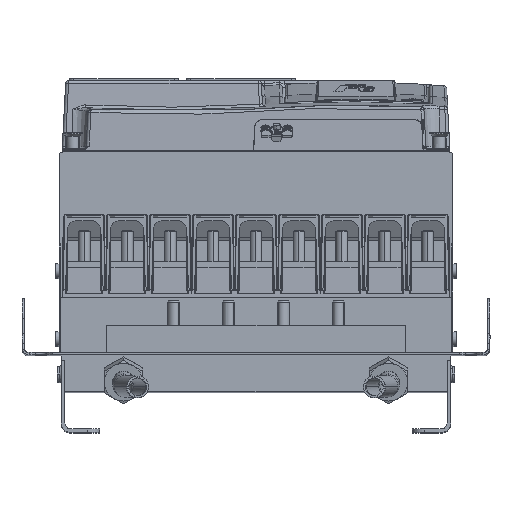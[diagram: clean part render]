
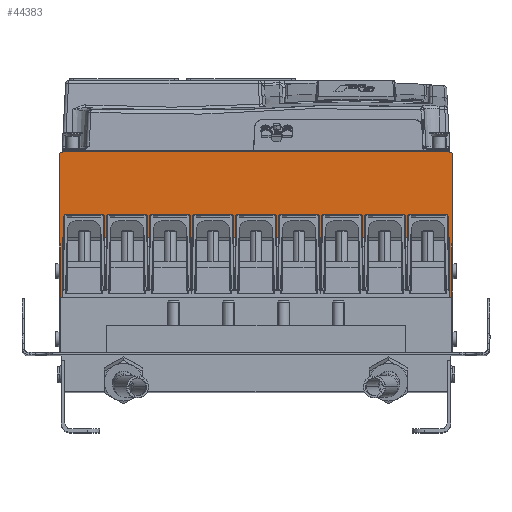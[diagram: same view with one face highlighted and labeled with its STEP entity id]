
A CAD part, top view. The second image highlights one B-rep face of the part: STEP entity #44383.
In plain terms, the highlighted planar face has unit normal (0, 0, 1).
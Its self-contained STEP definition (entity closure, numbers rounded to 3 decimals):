
#478 = CARTESIAN_POINT ( 'NONE',  ( 161.5, 0., 453. ) ) ;
#1146 = VERTEX_POINT ( 'NONE', #7150 ) ;
#2809 = CARTESIAN_POINT ( 'NONE',  ( 163.5, -77., 453. ) ) ;
#3658 = AXIS2_PLACEMENT_3D ( 'NONE', #93496, #74677, #92438 ) ;
#4091 = CARTESIAN_POINT ( 'NONE',  ( 165.001, -77., 453. ) ) ;
#4619 = VERTEX_POINT ( 'NONE', #11924 ) ;
#5424 = VECTOR ( 'NONE', #14589, 1000. ) ;
#7150 = CARTESIAN_POINT ( 'NONE',  ( -165., -77., 453. ) ) ;
#9783 = EDGE_CURVE ( 'NONE', #24070, #63951, #33402, .T. ) ;
#10223 = CARTESIAN_POINT ( 'NONE',  ( -161.5, 0., 453. ) ) ;
#11422 = EDGE_CURVE ( 'NONE', #63951, #24927, #14079, .T. ) ;
#11924 = CARTESIAN_POINT ( 'NONE',  ( 165., -3.5, 453. ) ) ;
#13183 = VERTEX_POINT ( 'NONE', #91283 ) ;
#14079 = LINE ( 'NONE', #46937, #96827 ) ;
#14589 = DIRECTION ( 'NONE',  ( 0., -1., 0. ) ) ;
#14734 = VECTOR ( 'NONE', #53625, 1000. ) ;
#14814 = VECTOR ( 'NONE', #29640, 1000. ) ;
#15070 = ORIENTED_EDGE ( 'NONE', *, *, #37021, .T. ) ;
#15710 = LINE ( 'NONE', #87223, #57717 ) ;
#17585 = FACE_OUTER_BOUND ( 'NONE', #43606, .T. ) ;
#18310 = EDGE_CURVE ( 'NONE', #24927, #13183, #18834, .T. ) ;
#18834 = LINE ( 'NONE', #68414, #22424 ) ;
#20288 = CARTESIAN_POINT ( 'NONE',  ( -163.5, -167.9, 453. ) ) ;
#20682 = VERTEX_POINT ( 'NONE', #478 ) ;
#21760 = CARTESIAN_POINT ( 'NONE',  ( -165.001, -77., 453. ) ) ;
#22050 = DIRECTION ( 'NONE',  ( 0., -1., 0. ) ) ;
#22424 = VECTOR ( 'NONE', #101266, 1000. ) ;
#22840 = AXIS2_PLACEMENT_3D ( 'NONE', #51602, #60221, #60759 ) ;
#24070 = VERTEX_POINT ( 'NONE', #2809 ) ;
#24927 = VERTEX_POINT ( 'NONE', #20288 ) ;
#27129 = VERTEX_POINT ( 'NONE', #33200 ) ;
#27844 = ORIENTED_EDGE ( 'NONE', *, *, #92322, .F. ) ;
#29640 = DIRECTION ( 'NONE',  ( 1., 0., 0. ) ) ;
#30129 = CARTESIAN_POINT ( 'NONE',  ( 161.5, -3.5, 453. ) ) ;
#33200 = CARTESIAN_POINT ( 'NONE',  ( -165., -3.5, 453. ) ) ;
#33402 = LINE ( 'NONE', #66261, #5424 ) ;
#34728 = AXIS2_PLACEMENT_3D ( 'NONE', #30129, #61402, #62452 ) ;
#37021 = EDGE_CURVE ( 'NONE', #1146, #13183, #89024, .T. ) ;
#40014 = DIRECTION ( 'NONE',  ( 1., 0., 0. ) ) ;
#40586 = CARTESIAN_POINT ( 'NONE',  ( 163.5, -167.9, 453. ) ) ;
#41862 = ORIENTED_EDGE ( 'NONE', *, *, #93109, .T. ) ;
#43606 = EDGE_LOOP ( 'NONE', ( #48774, #41862, #15070, #58077, #85843, #97935, #84265, #91715, #51311, #27844 ) ) ;
#43829 = DIRECTION ( 'NONE',  ( 0., 1., 0. ) ) ;
#44383 = ADVANCED_FACE ( 'NONE', ( #17585 ), #58514, .F. ) ;
#46576 = LINE ( 'NONE', #4091, #14734 ) ;
#46937 = CARTESIAN_POINT ( 'NONE',  ( 0., -167.9, 453. ) ) ;
#47613 = CARTESIAN_POINT ( 'NONE',  ( 165., -77., 453. ) ) ;
#48774 = ORIENTED_EDGE ( 'NONE', *, *, #88103, .F. ) ;
#49307 = EDGE_CURVE ( 'NONE', #83301, #24070, #46576, .T. ) ;
#50817 = EDGE_CURVE ( 'NONE', #83301, #4619, #76147, .T. ) ;
#51311 = ORIENTED_EDGE ( 'NONE', *, *, #82938, .F. ) ;
#51602 = CARTESIAN_POINT ( 'NONE',  ( -161.5, -3.5, 453. ) ) ;
#53625 = DIRECTION ( 'NONE',  ( -1., 0., 0. ) ) ;
#57523 = VECTOR ( 'NONE', #40014, 1000. ) ;
#57717 = VECTOR ( 'NONE', #22050, 1000. ) ;
#58077 = ORIENTED_EDGE ( 'NONE', *, *, #18310, .F. ) ;
#58514 = PLANE ( 'NONE',  #3658 ) ;
#60221 = DIRECTION ( 'NONE',  ( 0., 0., -1. ) ) ;
#60759 = DIRECTION ( 'NONE',  ( 0., 1., 0. ) ) ;
#61402 = DIRECTION ( 'NONE',  ( 0., 0., -1. ) ) ;
#62452 = DIRECTION ( 'NONE',  ( 0., 1., 0. ) ) ;
#62495 = CARTESIAN_POINT ( 'NONE',  ( 0., 0., 453. ) ) ;
#63951 = VERTEX_POINT ( 'NONE', #40586 ) ;
#66261 = CARTESIAN_POINT ( 'NONE',  ( 163.5, 0., 453. ) ) ;
#67265 = VECTOR ( 'NONE', #43829, 1000. ) ;
#68414 = CARTESIAN_POINT ( 'NONE',  ( -163.5, 0., 453. ) ) ;
#69181 = CIRCLE ( 'NONE', #34728, 3.5 ) ;
#74677 = DIRECTION ( 'NONE',  ( 0., 0., -1. ) ) ;
#76103 = CIRCLE ( 'NONE', #22840, 3.5 ) ;
#76147 = LINE ( 'NONE', #93908, #67265 ) ;
#76220 = VERTEX_POINT ( 'NONE', #10223 ) ;
#77047 = LINE ( 'NONE', #62495, #14814 ) ;
#79796 = DIRECTION ( 'NONE',  ( -1., 0., 0. ) ) ;
#82938 = EDGE_CURVE ( 'NONE', #20682, #4619, #69181, .T. ) ;
#83301 = VERTEX_POINT ( 'NONE', #47613 ) ;
#84265 = ORIENTED_EDGE ( 'NONE', *, *, #49307, .F. ) ;
#85843 = ORIENTED_EDGE ( 'NONE', *, *, #11422, .F. ) ;
#87223 = CARTESIAN_POINT ( 'NONE',  ( -165., -3.5, 453. ) ) ;
#88103 = EDGE_CURVE ( 'NONE', #27129, #76220, #76103, .T. ) ;
#89024 = LINE ( 'NONE', #21760, #57523 ) ;
#91283 = CARTESIAN_POINT ( 'NONE',  ( -163.5, -77., 453. ) ) ;
#91715 = ORIENTED_EDGE ( 'NONE', *, *, #50817, .T. ) ;
#92322 = EDGE_CURVE ( 'NONE', #76220, #20682, #77047, .T. ) ;
#92438 = DIRECTION ( 'NONE',  ( 0., 1., 0. ) ) ;
#93109 = EDGE_CURVE ( 'NONE', #27129, #1146, #15710, .T. ) ;
#93496 = CARTESIAN_POINT ( 'NONE',  ( 0., 0., 453. ) ) ;
#93908 = CARTESIAN_POINT ( 'NONE',  ( 165., -3.5, 453. ) ) ;
#96827 = VECTOR ( 'NONE', #79796, 1000. ) ;
#97935 = ORIENTED_EDGE ( 'NONE', *, *, #9783, .F. ) ;
#101266 = DIRECTION ( 'NONE',  ( 0., 1., 0. ) ) ;
